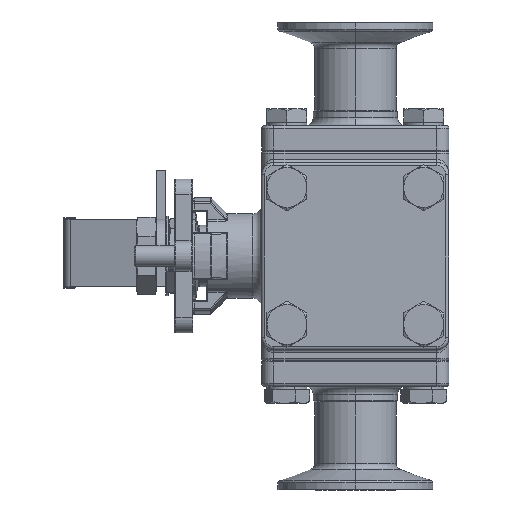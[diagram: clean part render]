
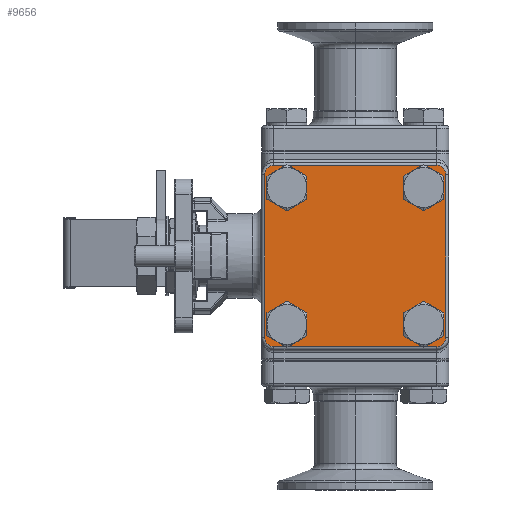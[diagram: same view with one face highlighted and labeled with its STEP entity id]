
A CAD part, left-side view. The second image highlights one B-rep face of the part: STEP entity #9656.
In plain terms, the highlighted planar face has unit normal (-1, 0, 0) as drawn and (0, 0, 1) by its records, which use the part's own axes.
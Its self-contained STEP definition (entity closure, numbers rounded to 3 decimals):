
#269 = ORIENTED_EDGE ( 'NONE', *, *, #7026, .F. ) ;
#586 = FACE_OUTER_BOUND ( 'NONE', #25791, .T. ) ;
#926 = ORIENTED_EDGE ( 'NONE', *, *, #31817, .T. ) ;
#1682 = DIRECTION ( 'NONE',  ( 1., 0., 0. ) ) ;
#3157 = ORIENTED_EDGE ( 'NONE', *, *, #13755, .F. ) ;
#3195 = DIRECTION ( 'NONE',  ( 0., 0., 1. ) ) ;
#3496 = EDGE_CURVE ( 'NONE', #29696, #17010, #5186, .T. ) ;
#3529 = CARTESIAN_POINT ( 'NONE',  ( -26.774, -22.274, 7. ) ) ;
#3675 = AXIS2_PLACEMENT_3D ( 'NONE', #18590, #7975, #10684 ) ;
#3748 = DIRECTION ( 'NONE',  ( 1., 0., 0. ) ) ;
#3880 = EDGE_LOOP ( 'NONE', ( #269, #3157 ) ) ;
#3886 = EDGE_CURVE ( 'NONE', #27649, #29285, #17395, .T. ) ;
#4107 = DIRECTION ( 'NONE',  ( 0., 0., 1. ) ) ;
#4120 = LINE ( 'NONE', #10328, #27694 ) ;
#4441 = CARTESIAN_POINT ( 'NONE',  ( 22.274, 22.274, 7. ) ) ;
#5186 = LINE ( 'NONE', #18690, #34748 ) ;
#5472 = AXIS2_PLACEMENT_3D ( 'NONE', #9185, #28165, #9536 ) ;
#6368 = AXIS2_PLACEMENT_3D ( 'NONE', #31412, #7202, #29112 ) ;
#6555 = VERTEX_POINT ( 'NONE', #26907 ) ;
#6985 = LINE ( 'NONE', #31802, #29770 ) ;
#7014 = DIRECTION ( 'NONE',  ( 1., 0., 0. ) ) ;
#7026 = EDGE_CURVE ( 'NONE', #25608, #25419, #26065, .T. ) ;
#7122 = ORIENTED_EDGE ( 'NONE', *, *, #3886, .F. ) ;
#7202 = DIRECTION ( 'NONE',  ( 0., 0., 1. ) ) ;
#7373 = CARTESIAN_POINT ( 'NONE',  ( 17.774, -22.274, 7. ) ) ;
#7741 = ORIENTED_EDGE ( 'NONE', *, *, #14999, .T. ) ;
#7975 = DIRECTION ( 'NONE',  ( 0., 0., 1. ) ) ;
#8407 = EDGE_LOOP ( 'NONE', ( #31303, #11252 ) ) ;
#8469 = CARTESIAN_POINT ( 'NONE',  ( 26.5, -26.5, 7. ) ) ;
#8994 = VERTEX_POINT ( 'NONE', #26949 ) ;
#9185 = CARTESIAN_POINT ( 'NONE',  ( 26.5, -26.5, 7. ) ) ;
#9305 = PLANE ( 'NONE',  #5472 ) ;
#9536 = DIRECTION ( 'NONE',  ( 1., 0., 0. ) ) ;
#9627 = AXIS2_PLACEMENT_3D ( 'NONE', #17083, #27339, #19315 ) ;
#9656 = ADVANCED_FACE ( 'NONE', ( #586, #20791, #17449, #31810, #28402 ), #9305, .T. ) ;
#9657 = AXIS2_PLACEMENT_3D ( 'NONE', #24415, #19449, #33056 ) ;
#9890 = ORIENTED_EDGE ( 'NONE', *, *, #30515, .T. ) ;
#9897 = AXIS2_PLACEMENT_3D ( 'NONE', #17938, #26287, #10246 ) ;
#9970 = EDGE_CURVE ( 'NONE', #10146, #8994, #18683, .T. ) ;
#9994 = CARTESIAN_POINT ( 'NONE',  ( -22.274, -22.274, 7. ) ) ;
#10146 = VERTEX_POINT ( 'NONE', #31333 ) ;
#10246 = DIRECTION ( 'NONE',  ( 1., 0., 0. ) ) ;
#10328 = CARTESIAN_POINT ( 'NONE',  ( 26.5, -29.5, 7. ) ) ;
#10684 = DIRECTION ( 'NONE',  ( 1., 0., 0. ) ) ;
#11252 = ORIENTED_EDGE ( 'NONE', *, *, #13375, .F. ) ;
#11310 = VERTEX_POINT ( 'NONE', #33501 ) ;
#11353 = CIRCLE ( 'NONE', #22079, 4.5 ) ;
#12129 = EDGE_LOOP ( 'NONE', ( #16668, #7122 ) ) ;
#12294 = AXIS2_PLACEMENT_3D ( 'NONE', #33108, #22086, #3748 ) ;
#12803 = CARTESIAN_POINT ( 'NONE',  ( 26.774, 22.274, 7. ) ) ;
#12844 = DIRECTION ( 'NONE',  ( 0., 0., 1. ) ) ;
#12953 = CIRCLE ( 'NONE', #30287, 4.5 ) ;
#13082 = CIRCLE ( 'NONE', #9657, 4.5 ) ;
#13204 = VERTEX_POINT ( 'NONE', #29140 ) ;
#13375 = EDGE_CURVE ( 'NONE', #26411, #6555, #13082, .T. ) ;
#13755 = EDGE_CURVE ( 'NONE', #25419, #25608, #11353, .T. ) ;
#14079 = CARTESIAN_POINT ( 'NONE',  ( -17.774, 22.274, 7. ) ) ;
#14139 = DIRECTION ( 'NONE',  ( 1., 0., 0. ) ) ;
#14433 = AXIS2_PLACEMENT_3D ( 'NONE', #27332, #19421, #14139 ) ;
#14450 = ORIENTED_EDGE ( 'NONE', *, *, #24535, .F. ) ;
#14916 = VECTOR ( 'NONE', #30831, 1000. ) ;
#14999 = EDGE_CURVE ( 'NONE', #17010, #18462, #16328, .T. ) ;
#15577 = EDGE_CURVE ( 'NONE', #18462, #21279, #4120, .T. ) ;
#15871 = EDGE_CURVE ( 'NONE', #6555, #26411, #32549, .T. ) ;
#15959 = CARTESIAN_POINT ( 'NONE',  ( -29.5, 26.5, 7. ) ) ;
#16246 = CARTESIAN_POINT ( 'NONE',  ( 26.5, -29.5, 7. ) ) ;
#16328 = CIRCLE ( 'NONE', #9897, 3. ) ;
#16668 = ORIENTED_EDGE ( 'NONE', *, *, #20500, .F. ) ;
#16937 = AXIS2_PLACEMENT_3D ( 'NONE', #4441, #4107, #7014 ) ;
#17010 = VERTEX_POINT ( 'NONE', #20301 ) ;
#17083 = CARTESIAN_POINT ( 'NONE',  ( -26.5, 26.5, 7. ) ) ;
#17395 = CIRCLE ( 'NONE', #14433, 4.5 ) ;
#17412 = ORIENTED_EDGE ( 'NONE', *, *, #22776, .F. ) ;
#17449 = FACE_BOUND ( 'NONE', #8407, .T. ) ;
#17938 = CARTESIAN_POINT ( 'NONE',  ( -26.5, -26.5, 7. ) ) ;
#18096 = DIRECTION ( 'NONE',  ( 0., 1., 0. ) ) ;
#18376 = CARTESIAN_POINT ( 'NONE',  ( 22.274, -22.274, 7. ) ) ;
#18462 = VERTEX_POINT ( 'NONE', #23592 ) ;
#18590 = CARTESIAN_POINT ( 'NONE',  ( -22.274, -22.274, 7. ) ) ;
#18683 = CIRCLE ( 'NONE', #12294, 3. ) ;
#18690 = CARTESIAN_POINT ( 'NONE',  ( -29.5, -26.5, 7. ) ) ;
#19151 = CARTESIAN_POINT ( 'NONE',  ( 26.774, -22.274, 7. ) ) ;
#19315 = DIRECTION ( 'NONE',  ( 1., 0., 0. ) ) ;
#19400 = DIRECTION ( 'NONE',  ( 1., 0., 0. ) ) ;
#19421 = DIRECTION ( 'NONE',  ( 0., 0., 1. ) ) ;
#19449 = DIRECTION ( 'NONE',  ( 0., 0., 1. ) ) ;
#19622 = CARTESIAN_POINT ( 'NONE',  ( -26.774, 22.274, 7. ) ) ;
#19649 = ORIENTED_EDGE ( 'NONE', *, *, #28777, .T. ) ;
#20301 = CARTESIAN_POINT ( 'NONE',  ( -29.5, -26.5, 7. ) ) ;
#20500 = EDGE_CURVE ( 'NONE', #29285, #27649, #12953, .T. ) ;
#20791 = FACE_BOUND ( 'NONE', #29766, .T. ) ;
#21171 = DIRECTION ( 'NONE',  ( 1., 0., 0. ) ) ;
#21279 = VERTEX_POINT ( 'NONE', #16246 ) ;
#21553 = ORIENTED_EDGE ( 'NONE', *, *, #15577, .T. ) ;
#22012 = DIRECTION ( 'NONE',  ( 1., 0., 0. ) ) ;
#22079 = AXIS2_PLACEMENT_3D ( 'NONE', #18376, #12844, #21171 ) ;
#22086 = DIRECTION ( 'NONE',  ( 0., 0., 1. ) ) ;
#22277 = CARTESIAN_POINT ( 'NONE',  ( -26.5, 29.5, 7. ) ) ;
#22776 = EDGE_CURVE ( 'NONE', #11310, #27264, #28435, .T. ) ;
#23088 = AXIS2_PLACEMENT_3D ( 'NONE', #8469, #3195, #22012 ) ;
#23592 = CARTESIAN_POINT ( 'NONE',  ( -26.5, -29.5, 7. ) ) ;
#23596 = ORIENTED_EDGE ( 'NONE', *, *, #9970, .T. ) ;
#23687 = EDGE_CURVE ( 'NONE', #8994, #28688, #34772, .T. ) ;
#24415 = CARTESIAN_POINT ( 'NONE',  ( 22.274, 22.274, 7. ) ) ;
#24455 = ORIENTED_EDGE ( 'NONE', *, *, #3496, .T. ) ;
#24535 = EDGE_CURVE ( 'NONE', #27264, #11310, #34756, .T. ) ;
#25419 = VERTEX_POINT ( 'NONE', #19151 ) ;
#25608 = VERTEX_POINT ( 'NONE', #7373 ) ;
#25791 = EDGE_LOOP ( 'NONE', ( #926, #23596, #34857, #19649, #24455, #7741, #21553, #9890 ) ) ;
#26065 = CIRCLE ( 'NONE', #6368, 4.5 ) ;
#26287 = DIRECTION ( 'NONE',  ( 0., 0., 1. ) ) ;
#26411 = VERTEX_POINT ( 'NONE', #12803 ) ;
#26907 = CARTESIAN_POINT ( 'NONE',  ( 17.774, 22.274, 7. ) ) ;
#26949 = CARTESIAN_POINT ( 'NONE',  ( 26.5, 29.5, 7. ) ) ;
#27264 = VERTEX_POINT ( 'NONE', #3529 ) ;
#27332 = CARTESIAN_POINT ( 'NONE',  ( -22.274, 22.274, 7. ) ) ;
#27339 = DIRECTION ( 'NONE',  ( 0., 0., 1. ) ) ;
#27649 = VERTEX_POINT ( 'NONE', #14079 ) ;
#27694 = VECTOR ( 'NONE', #29574, 1000. ) ;
#28165 = DIRECTION ( 'NONE',  ( 0., 0., 1. ) ) ;
#28402 = FACE_BOUND ( 'NONE', #12129, .T. ) ;
#28435 = CIRCLE ( 'NONE', #32529, 4.5 ) ;
#28566 = CIRCLE ( 'NONE', #23088, 3. ) ;
#28688 = VERTEX_POINT ( 'NONE', #32134 ) ;
#28777 = EDGE_CURVE ( 'NONE', #28688, #29696, #34960, .T. ) ;
#29112 = DIRECTION ( 'NONE',  ( 1., 0., 0. ) ) ;
#29140 = CARTESIAN_POINT ( 'NONE',  ( 29.5, -26.5, 7. ) ) ;
#29285 = VERTEX_POINT ( 'NONE', #19622 ) ;
#29574 = DIRECTION ( 'NONE',  ( 1., 0., 0. ) ) ;
#29696 = VERTEX_POINT ( 'NONE', #15959 ) ;
#29766 = EDGE_LOOP ( 'NONE', ( #14450, #17412 ) ) ;
#29770 = VECTOR ( 'NONE', #18096, 1000. ) ;
#30287 = AXIS2_PLACEMENT_3D ( 'NONE', #33248, #30537, #19400 ) ;
#30515 = EDGE_CURVE ( 'NONE', #21279, #13204, #28566, .T. ) ;
#30537 = DIRECTION ( 'NONE',  ( 0., 0., 1. ) ) ;
#30831 = DIRECTION ( 'NONE',  ( -1., 0., 0. ) ) ;
#31303 = ORIENTED_EDGE ( 'NONE', *, *, #15871, .F. ) ;
#31333 = CARTESIAN_POINT ( 'NONE',  ( 29.5, 26.5, 7. ) ) ;
#31412 = CARTESIAN_POINT ( 'NONE',  ( 22.274, -22.274, 7. ) ) ;
#31802 = CARTESIAN_POINT ( 'NONE',  ( 29.5, 26.5, 7. ) ) ;
#31810 = FACE_BOUND ( 'NONE', #3880, .T. ) ;
#31817 = EDGE_CURVE ( 'NONE', #13204, #10146, #6985, .T. ) ;
#32134 = CARTESIAN_POINT ( 'NONE',  ( -26.5, 29.5, 7. ) ) ;
#32502 = DIRECTION ( 'NONE',  ( 0., -1., 0. ) ) ;
#32529 = AXIS2_PLACEMENT_3D ( 'NONE', #9994, #34346, #1682 ) ;
#32549 = CIRCLE ( 'NONE', #16937, 4.5 ) ;
#33056 = DIRECTION ( 'NONE',  ( 1., 0., 0. ) ) ;
#33108 = CARTESIAN_POINT ( 'NONE',  ( 26.5, 26.5, 7. ) ) ;
#33248 = CARTESIAN_POINT ( 'NONE',  ( -22.274, 22.274, 7. ) ) ;
#33501 = CARTESIAN_POINT ( 'NONE',  ( -17.774, -22.274, 7. ) ) ;
#34346 = DIRECTION ( 'NONE',  ( 0., 0., 1. ) ) ;
#34748 = VECTOR ( 'NONE', #32502, 1000. ) ;
#34756 = CIRCLE ( 'NONE', #3675, 4.5 ) ;
#34772 = LINE ( 'NONE', #22277, #14916 ) ;
#34857 = ORIENTED_EDGE ( 'NONE', *, *, #23687, .T. ) ;
#34960 = CIRCLE ( 'NONE', #9627, 3. ) ;
